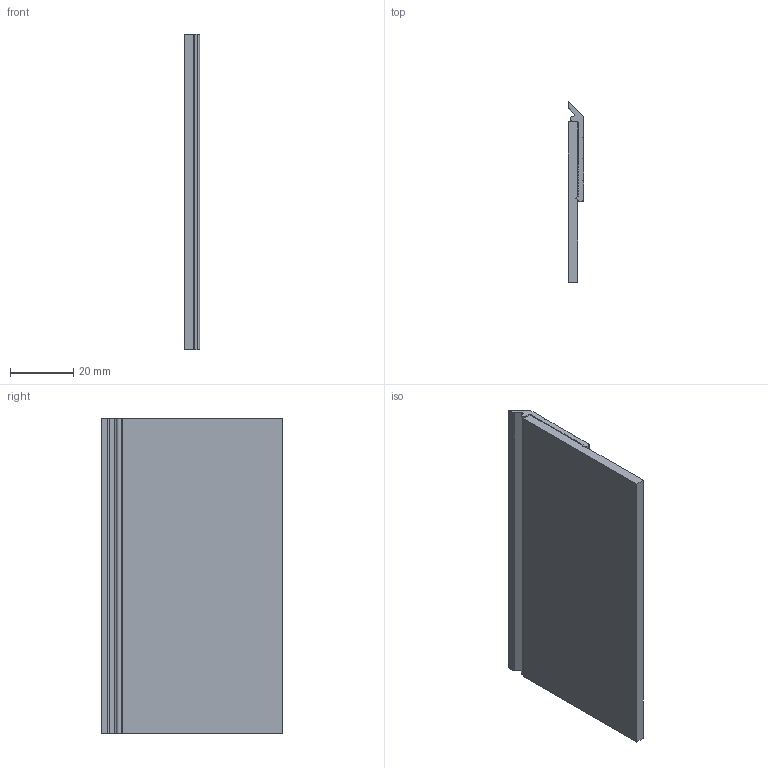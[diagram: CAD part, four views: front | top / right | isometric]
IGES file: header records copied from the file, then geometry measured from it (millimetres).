
Global section: file name: No Iges File Name specified; native system: Autodesk Inventor 2012; preprocessor: AutoDesk Inventor Iges Exporter R2012; author: anna.b; date: 20130822.111737; units: millimetre
Bounding box: 4.83 x 57.39 x 100 mm (x, y, z)
Volume: 20801.6 mm3; surface area: 18892.6 mm2
Topology: 2 solids, 2 shells, 76 faces, 216 edges, 144 vertices
Faces by surface type: plane 71, cylinder 3, revolution 2
